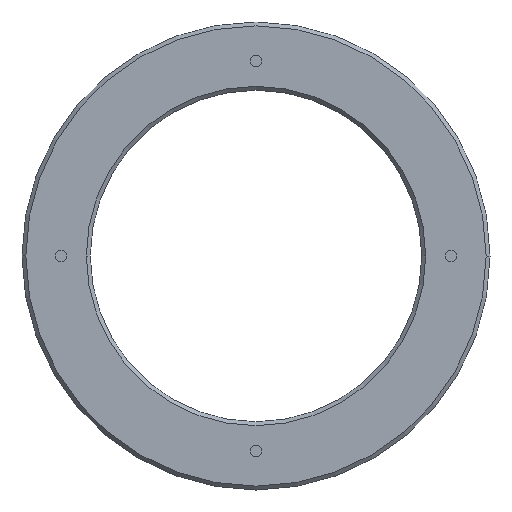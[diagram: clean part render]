
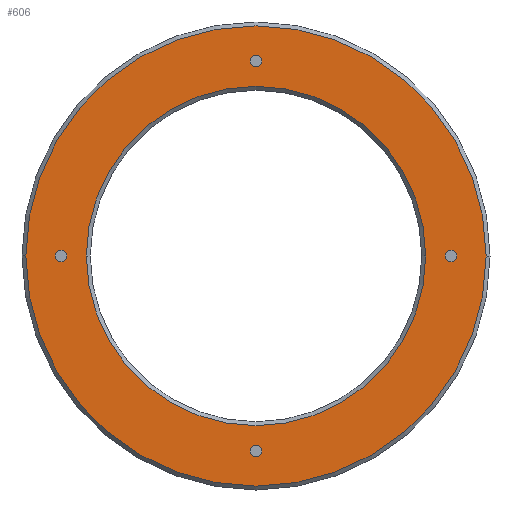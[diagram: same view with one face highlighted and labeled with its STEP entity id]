
A CAD part, front view. The second image highlights one B-rep face of the part: STEP entity #606.
In plain terms, the highlighted planar face has unit normal (0, -1, 0).
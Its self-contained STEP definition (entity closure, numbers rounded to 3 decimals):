
#6=CARTESIAN_POINT('',(50.,-12.5,0.));
#7=DIRECTION('',(0.,-1.,0.));
#8=DIRECTION('',(0.,0.,-1.));
#9=AXIS2_PLACEMENT_3D('',#6,#7,#8);
#11=CARTESIAN_POINT('',(50.,-12.5,0.));
#12=DIRECTION('',(0.,-1.,0.));
#13=DIRECTION('',(0.,0.,1.));
#14=AXIS2_PLACEMENT_3D('',#11,#12,#13);
#16=CARTESIAN_POINT('',(0.,-12.5,-50.));
#17=DIRECTION('',(0.,-1.,0.));
#18=DIRECTION('',(0.,0.,-1.));
#19=AXIS2_PLACEMENT_3D('',#16,#17,#18);
#21=CARTESIAN_POINT('',(0.,-12.5,-50.));
#22=DIRECTION('',(0.,-1.,0.));
#23=DIRECTION('',(0.,0.,1.));
#24=AXIS2_PLACEMENT_3D('',#21,#22,#23);
#26=CARTESIAN_POINT('',(-50.,-12.5,0.));
#27=DIRECTION('',(0.,-1.,0.));
#28=DIRECTION('',(0.,0.,-1.));
#29=AXIS2_PLACEMENT_3D('',#26,#27,#28);
#31=CARTESIAN_POINT('',(-50.,-12.5,0.));
#32=DIRECTION('',(0.,-1.,0.));
#33=DIRECTION('',(0.,0.,1.));
#34=AXIS2_PLACEMENT_3D('',#31,#32,#33);
#36=CARTESIAN_POINT('',(0.,-12.5,50.));
#37=DIRECTION('',(0.,-1.,0.));
#38=DIRECTION('',(0.,0.,-1.));
#39=AXIS2_PLACEMENT_3D('',#36,#37,#38);
#41=CARTESIAN_POINT('',(0.,-12.5,50.));
#42=DIRECTION('',(0.,-1.,0.));
#43=DIRECTION('',(0.,0.,1.));
#44=AXIS2_PLACEMENT_3D('',#41,#42,#43);
#46=CARTESIAN_POINT('',(0.,-12.5,
0.));
#47=DIRECTION('',(0.,1.,0.));
#48=DIRECTION('',(-1.,0.,0.));
#49=AXIS2_PLACEMENT_3D('',#46,#47,#48);
#51=CARTESIAN_POINT('',(0.,-12.5,0.));
#52=DIRECTION('',(0.,1.,0.));
#53=DIRECTION('',(1.,0.,0.));
#54=AXIS2_PLACEMENT_3D('',#51,#52,#53);
#56=CARTESIAN_POINT('',(0.,-12.5,
0.));
#57=DIRECTION('',(0.,1.,0.));
#58=DIRECTION('',(-1.,0.,0.));
#59=AXIS2_PLACEMENT_3D('',#56,#57,#58);
#61=CARTESIAN_POINT('',(0.,-12.5,
0.));
#62=DIRECTION('',(0.,1.,0.));
#63=DIRECTION('',(1.,0.,0.));
#64=AXIS2_PLACEMENT_3D('',#61,#62,#63);
#466=CARTESIAN_POINT('',(50.,-12.5,-1.5));
#467=CARTESIAN_POINT('',(50.,-12.5,1.5));
#468=VERTEX_POINT('',#466);
#469=VERTEX_POINT('',#467);
#470=CARTESIAN_POINT('',(0.,-12.5,-51.5));
#471=CARTESIAN_POINT('',(0.,-12.5,-48.5));
#472=VERTEX_POINT('',#470);
#473=VERTEX_POINT('',#471);
#474=CARTESIAN_POINT('',(-50.,-12.5,-1.5));
#475=CARTESIAN_POINT('',(-50.,-12.5,1.5));
#476=VERTEX_POINT('',#474);
#477=VERTEX_POINT('',#475);
#478=CARTESIAN_POINT('',(0.,-12.5,48.5));
#479=CARTESIAN_POINT('',(0.,-12.5,51.5));
#480=VERTEX_POINT('',#478);
#481=VERTEX_POINT('',#479);
#534=CARTESIAN_POINT('',(-43.5,-12.5,
0.));
#535=CARTESIAN_POINT('',(43.5,-12.5,
0.));
#536=VERTEX_POINT('',#534);
#537=VERTEX_POINT('',#535);
#542=CARTESIAN_POINT('',(-59.,-12.5,
0.));
#543=CARTESIAN_POINT('',(59.,-12.5,
0.));
#544=VERTEX_POINT('',#542);
#545=VERTEX_POINT('',#543);
#566=CARTESIAN_POINT('',(0.,-12.5,0.));
#567=DIRECTION('',(0.,-1.,0.));
#568=DIRECTION('',(-1.,0.,0.));
#569=AXIS2_PLACEMENT_3D('',#566,#567,#568);
#570=PLANE('',#569);
#572=ORIENTED_EDGE('',*,*,#571,.T.);
#574=ORIENTED_EDGE('',*,*,#573,.T.);
#575=EDGE_LOOP('',(#572,#574));
#576=FACE_OUTER_BOUND('',#575,.F.);
#577=ORIENTED_EDGE('',*,*,#555,.T.);
#579=ORIENTED_EDGE('',*,*,#578,.T.);
#580=EDGE_LOOP('',(#577,#579));
#581=FACE_BOUND('',#580,.F.);
#583=ORIENTED_EDGE('',*,*,#582,.T.);
#585=ORIENTED_EDGE('',*,*,#584,.T.);
#586=EDGE_LOOP('',(#583,#585));
#587=FACE_BOUND('',#586,.F.);
#589=ORIENTED_EDGE('',*,*,#588,.T.);
#591=ORIENTED_EDGE('',*,*,#590,.T.);
#592=EDGE_LOOP('',(#589,#591));
#593=FACE_BOUND('',#592,.F.);
#595=ORIENTED_EDGE('',*,*,#594,.T.);
#597=ORIENTED_EDGE('',*,*,#596,.T.);
#598=EDGE_LOOP('',(#595,#597));
#599=FACE_BOUND('',#598,.F.);
#601=ORIENTED_EDGE('',*,*,#600,.F.);
#603=ORIENTED_EDGE('',*,*,#602,.F.);
#604=EDGE_LOOP('',(#601,#603));
#605=FACE_BOUND('',#604,.F.);
#10=CIRCLE('',#9,1.5);
#15=CIRCLE('',#14,1.5);
#20=CIRCLE('',#19,1.5);
#25=CIRCLE('',#24,1.5);
#30=CIRCLE('',#29,1.5);
#35=CIRCLE('',#34,1.5);
#40=CIRCLE('',#39,1.5);
#45=CIRCLE('',#44,1.5);
#50=CIRCLE('',#49,43.5);
#55=CIRCLE('',#54,43.5);
#60=CIRCLE('',#59,59.);
#65=CIRCLE('',#64,59.);
#555=EDGE_CURVE('',#468,#469,#10,.T.);
#571=EDGE_CURVE('',#544,#545,#60,.T.);
#573=EDGE_CURVE('',#545,#544,#65,.T.);
#578=EDGE_CURVE('',#469,#468,#15,.T.);
#582=EDGE_CURVE('',#472,#473,#20,.T.);
#584=EDGE_CURVE('',#473,#472,#25,.T.);
#588=EDGE_CURVE('',#476,#477,#30,.T.);
#590=EDGE_CURVE('',#477,#476,#35,.T.);
#594=EDGE_CURVE('',#480,#481,#40,.T.);
#596=EDGE_CURVE('',#481,#480,#45,.T.);
#600=EDGE_CURVE('',#536,#537,#50,.T.);
#602=EDGE_CURVE('',#537,#536,#55,.T.);
#606=ADVANCED_FACE('',(#576,#581,#587,#593,#599,#605),#570,.T.);
